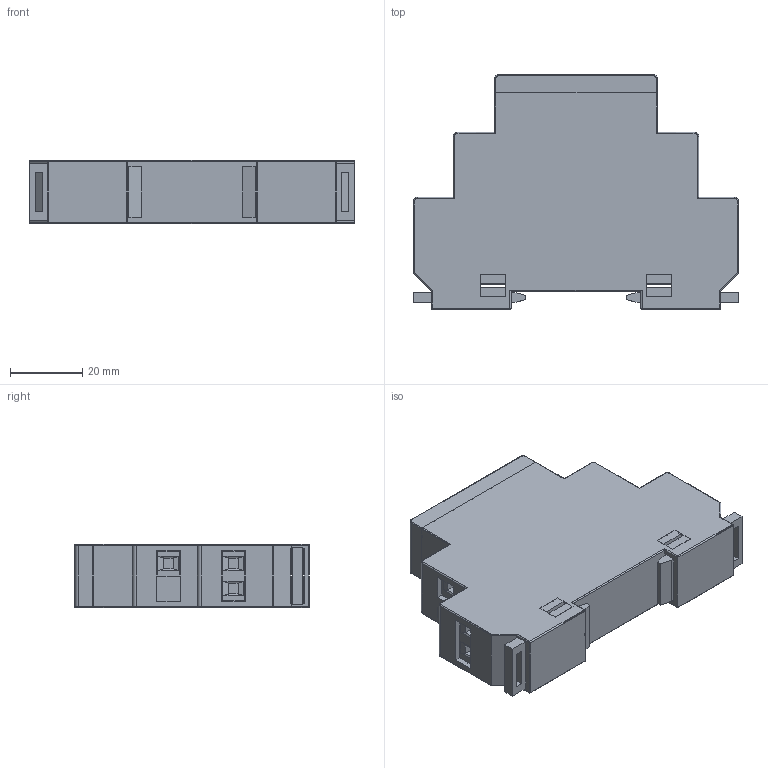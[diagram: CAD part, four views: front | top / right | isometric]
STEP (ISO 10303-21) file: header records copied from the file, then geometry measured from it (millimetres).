
FILE_DESCRIPTION (( 'STEP AP214' ), '1' );
FILE_NAME ('MCR-TK-001-UNI_kontrola.step', '2014-08-19T12:36:15', ( '' ), ( '' ), 'SwSTEP 2.0', 'SolidWorks 2011', '' );
FILE_SCHEMA (( 'AUTOMOTIVE_DESIGN' ));
Length unit declared in the file: millimetre
Products named in the file (1): MCR-TK-001-UNI_kontrola
Bounding box: 90 x 65 x 17.6 mm (x, y, z)
Volume: 17208.3 mm3; surface area: 44628.6 mm2
Topology: 8 solids, 8 shells, 909 faces, 2459 edges, 1570 vertices
Faces by surface type: plane 742, cylinder 123, bspline 44
Entity records: 39255 total; most frequent: CARTESIAN_POINT 6407, ORIENTED_EDGE 4902, DIRECTION 4437, EDGE_CURVE 2451, LINE 1989, VECTOR 1989, VERTEX_POINT 1570, AXIS2_PLACEMENT_3D 1224
